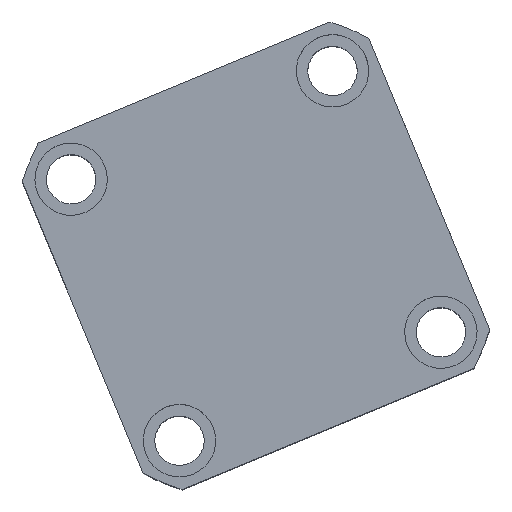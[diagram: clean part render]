
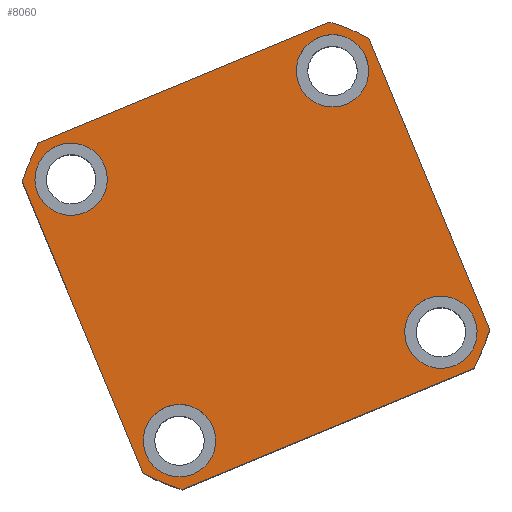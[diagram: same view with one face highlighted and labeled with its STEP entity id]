
A CAD part, top view. The second image highlights one B-rep face of the part: STEP entity #8060.
In plain terms, the highlighted planar face has unit normal (0, 0, 1) as drawn and (0, 0, -1) by its records, which use the part's own axes.
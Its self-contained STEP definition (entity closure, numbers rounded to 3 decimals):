
#17 = DIRECTION ( 'NONE',  ( 0., 0., -1. ) ) ;
#90 = AXIS2_PLACEMENT_3D ( 'NONE', #1785, #5135, #10021 ) ;
#207 = CARTESIAN_POINT ( 'NONE',  ( 43., 43., 0. ) ) ;
#257 = DIRECTION ( 'NONE',  ( 0., 0., -1. ) ) ;
#310 = DIRECTION ( 'NONE',  ( -1., 0., 0. ) ) ;
#329 = CARTESIAN_POINT ( 'NONE',  ( 47.971, 57., 0. ) ) ;
#367 = DIRECTION ( 'NONE',  ( -1., 0., 0. ) ) ;
#378 = CIRCLE ( 'NONE', #9667, 11. ) ;
#385 = ORIENTED_EDGE ( 'NONE', *, *, #4829, .F. ) ;
#488 = VERTEX_POINT ( 'NONE', #329 ) ;
#572 = PLANE ( 'NONE',  #90 ) ;
#603 = EDGE_CURVE ( 'NONE', #13533, #8604, #7409, .T. ) ;
#964 = EDGE_CURVE ( 'NONE', #7082, #14707, #2797, .T. ) ;
#1242 = CARTESIAN_POINT ( 'NONE',  ( 0., 0., 0. ) ) ;
#1319 = EDGE_LOOP ( 'NONE', ( #7719, #14315, #6073, #9938, #13782, #14429, #12432, #10963 ) ) ;
#1517 = CARTESIAN_POINT ( 'NONE',  ( 0., 0., 0. ) ) ;
#1518 = EDGE_LOOP ( 'NONE', ( #12009, #6906 ) ) ;
#1567 = AXIS2_PLACEMENT_3D ( 'NONE', #1242, #9491, #2457 ) ;
#1706 = CARTESIAN_POINT ( 'NONE',  ( -32., 43., 0. ) ) ;
#1785 = CARTESIAN_POINT ( 'NONE',  ( 0., 0., 0. ) ) ;
#2457 = DIRECTION ( 'NONE',  ( 1., 0., 0. ) ) ;
#2491 = DIRECTION ( 'NONE',  ( 0., 0., -1. ) ) ;
#2653 = DIRECTION ( 'NONE',  ( 0., 1., 0. ) ) ;
#2657 = CARTESIAN_POINT ( 'NONE',  ( 47.971, -57., 0. ) ) ;
#2724 = DIRECTION ( 'NONE',  ( 1., 0., 0. ) ) ;
#2797 = CIRCLE ( 'NONE', #6950, 74.5 ) ;
#2809 = VECTOR ( 'NONE', #12925, 1000. ) ;
#2839 = AXIS2_PLACEMENT_3D ( 'NONE', #5458, #13668, #6651 ) ;
#2993 = AXIS2_PLACEMENT_3D ( 'NONE', #11879, #4863, #13051 ) ;
#3221 = CARTESIAN_POINT ( 'NONE',  ( 0., 0., 0. ) ) ;
#3405 = EDGE_LOOP ( 'NONE', ( #385, #7422 ) ) ;
#3536 = FACE_OUTER_BOUND ( 'NONE', #1319, .T. ) ;
#3766 = VECTOR ( 'NONE', #2653, 1000. ) ;
#3879 = CARTESIAN_POINT ( 'NONE',  ( -47.971, 57., 0. ) ) ;
#3904 = CIRCLE ( 'NONE', #4050, 74.5 ) ;
#4050 = AXIS2_PLACEMENT_3D ( 'NONE', #1517, #9768, #2724 ) ;
#4234 = ORIENTED_EDGE ( 'NONE', *, *, #14848, .F. ) ;
#4401 = DIRECTION ( 'NONE',  ( 1., 0., 0. ) ) ;
#4727 = CARTESIAN_POINT ( 'NONE',  ( -57., 57., 0. ) ) ;
#4741 = CARTESIAN_POINT ( 'NONE',  ( 57., 47.971, 0. ) ) ;
#4742 = VERTEX_POINT ( 'NONE', #5821 ) ;
#4829 = EDGE_CURVE ( 'NONE', #8604, #13533, #378, .T. ) ;
#4845 = AXIS2_PLACEMENT_3D ( 'NONE', #14445, #7451, #367 ) ;
#4849 = VERTEX_POINT ( 'NONE', #9411 ) ;
#4863 = DIRECTION ( 'NONE',  ( 0., 0., -1. ) ) ;
#4871 = CIRCLE ( 'NONE', #2993, 11. ) ;
#4925 = DIRECTION ( 'NONE',  ( 0., 0., 1. ) ) ;
#4961 = CARTESIAN_POINT ( 'NONE',  ( 32., 43., 0. ) ) ;
#4985 = CARTESIAN_POINT ( 'NONE',  ( 57., -47.971, 0. ) ) ;
#5135 = DIRECTION ( 'NONE',  ( 0., 0., 1. ) ) ;
#5458 = CARTESIAN_POINT ( 'NONE',  ( 43., -43., 0. ) ) ;
#5668 = CIRCLE ( 'NONE', #11207, 11. ) ;
#5693 = DIRECTION ( 'NONE',  ( 0., -1., 0. ) ) ;
#5821 = CARTESIAN_POINT ( 'NONE',  ( -54., -43., 0. ) ) ;
#6073 = ORIENTED_EDGE ( 'NONE', *, *, #964, .F. ) ;
#6109 = DIRECTION ( 'NONE',  ( 1., 0., 0. ) ) ;
#6199 = VERTEX_POINT ( 'NONE', #8229 ) ;
#6216 = VERTEX_POINT ( 'NONE', #10587 ) ;
#6256 = DIRECTION ( 'NONE',  ( 0., 0., -1. ) ) ;
#6268 = CARTESIAN_POINT ( 'NONE',  ( -57., -47.971, 0. ) ) ;
#6316 = EDGE_LOOP ( 'NONE', ( #10907, #4234 ) ) ;
#6373 = VERTEX_POINT ( 'NONE', #4741 ) ;
#6523 = DIRECTION ( 'NONE',  ( 0., 0., -1. ) ) ;
#6586 = EDGE_CURVE ( 'NONE', #10456, #14297, #3904, .T. ) ;
#6647 = FACE_BOUND ( 'NONE', #14919, .T. ) ;
#6651 = DIRECTION ( 'NONE',  ( -1., 0., 0. ) ) ;
#6660 = EDGE_CURVE ( 'NONE', #6216, #4742, #9790, .T. ) ;
#6888 = VECTOR ( 'NONE', #5693, 1000. ) ;
#6906 = ORIENTED_EDGE ( 'NONE', *, *, #6660, .F. ) ;
#6950 = AXIS2_PLACEMENT_3D ( 'NONE', #3221, #11424, #4401 ) ;
#7035 = FACE_BOUND ( 'NONE', #1518, .T. ) ;
#7082 = VERTEX_POINT ( 'NONE', #2657 ) ;
#7114 = CARTESIAN_POINT ( 'NONE',  ( 43., 43., 0. ) ) ;
#7255 = CARTESIAN_POINT ( 'NONE',  ( -57., -57., 0. ) ) ;
#7409 = CIRCLE ( 'NONE', #11922, 11. ) ;
#7422 = ORIENTED_EDGE ( 'NONE', *, *, #603, .F. ) ;
#7451 = DIRECTION ( 'NONE',  ( 0., 0., -1. ) ) ;
#7503 = CIRCLE ( 'NONE', #2839, 11. ) ;
#7719 = ORIENTED_EDGE ( 'NONE', *, *, #10242, .F. ) ;
#7993 = VERTEX_POINT ( 'NONE', #6268 ) ;
#8060 = ADVANCED_FACE ( 'NONE', ( #7035, #6647, #9780, #12890, #3536 ), #572, .F. ) ;
#8074 = EDGE_CURVE ( 'NONE', #4742, #6216, #9409, .T. ) ;
#8229 = CARTESIAN_POINT ( 'NONE',  ( -47.971, -57., 0. ) ) ;
#8286 = DIRECTION ( 'NONE',  ( -1., 0., 0. ) ) ;
#8361 = ORIENTED_EDGE ( 'NONE', *, *, #14162, .F. ) ;
#8469 = EDGE_CURVE ( 'NONE', #10542, #11073, #4871, .T. ) ;
#8604 = VERTEX_POINT ( 'NONE', #4961 ) ;
#8612 = EDGE_CURVE ( 'NONE', #14707, #6373, #10007, .T. ) ;
#8685 = LINE ( 'NONE', #4727, #2809 ) ;
#8688 = CIRCLE ( 'NONE', #8788, 74.5 ) ;
#8696 = CARTESIAN_POINT ( 'NONE',  ( 54., 43., 0. ) ) ;
#8788 = AXIS2_PLACEMENT_3D ( 'NONE', #11942, #4925, #13117 ) ;
#8882 = CIRCLE ( 'NONE', #1567, 74.5 ) ;
#9409 = CIRCLE ( 'NONE', #14564, 11. ) ;
#9411 = CARTESIAN_POINT ( 'NONE',  ( 32., -43., 0. ) ) ;
#9491 = DIRECTION ( 'NONE',  ( 0., 0., 1. ) ) ;
#9523 = CARTESIAN_POINT ( 'NONE',  ( 43., -43., 0. ) ) ;
#9667 = AXIS2_PLACEMENT_3D ( 'NONE', #7114, #17, #8286 ) ;
#9768 = DIRECTION ( 'NONE',  ( 0., 0., 1. ) ) ;
#9780 = FACE_BOUND ( 'NONE', #3405, .T. ) ;
#9790 = CIRCLE ( 'NONE', #4845, 11. ) ;
#9921 = EDGE_CURVE ( 'NONE', #14297, #7993, #13456, .T. ) ;
#9925 = AXIS2_PLACEMENT_3D ( 'NONE', #9523, #2491, #10700 ) ;
#9938 = ORIENTED_EDGE ( 'NONE', *, *, #14687, .F. ) ;
#10007 = LINE ( 'NONE', #11926, #3766 ) ;
#10021 = DIRECTION ( 'NONE',  ( 1., 0., 0. ) ) ;
#10242 = EDGE_CURVE ( 'NONE', #6373, #488, #8882, .T. ) ;
#10456 = VERTEX_POINT ( 'NONE', #3879 ) ;
#10542 = VERTEX_POINT ( 'NONE', #11163 ) ;
#10587 = CARTESIAN_POINT ( 'NONE',  ( -32., -43., 0. ) ) ;
#10592 = EDGE_CURVE ( 'NONE', #488, #10456, #8685, .T. ) ;
#10700 = DIRECTION ( 'NONE',  ( -1., 0., 0. ) ) ;
#10834 = VERTEX_POINT ( 'NONE', #12088 ) ;
#10907 = ORIENTED_EDGE ( 'NONE', *, *, #8469, .F. ) ;
#10963 = ORIENTED_EDGE ( 'NONE', *, *, #10592, .F. ) ;
#11073 = VERTEX_POINT ( 'NONE', #1706 ) ;
#11163 = CARTESIAN_POINT ( 'NONE',  ( -54., 43., 0. ) ) ;
#11207 = AXIS2_PLACEMENT_3D ( 'NONE', #13271, #6256, #14441 ) ;
#11424 = DIRECTION ( 'NONE',  ( 0., 0., 1. ) ) ;
#11879 = CARTESIAN_POINT ( 'NONE',  ( -43., 43., 0. ) ) ;
#11894 = LINE ( 'NONE', #7255, #14616 ) ;
#11922 = AXIS2_PLACEMENT_3D ( 'NONE', #207, #257, #310 ) ;
#11926 = CARTESIAN_POINT ( 'NONE',  ( 57., 57., 0. ) ) ;
#11942 = CARTESIAN_POINT ( 'NONE',  ( 0., 0., 0. ) ) ;
#12009 = ORIENTED_EDGE ( 'NONE', *, *, #8074, .F. ) ;
#12088 = CARTESIAN_POINT ( 'NONE',  ( 54., -43., 0. ) ) ;
#12432 = ORIENTED_EDGE ( 'NONE', *, *, #6586, .F. ) ;
#12685 = EDGE_CURVE ( 'NONE', #7993, #6199, #8688, .T. ) ;
#12890 = FACE_BOUND ( 'NONE', #6316, .T. ) ;
#12925 = DIRECTION ( 'NONE',  ( -1., 0., 0. ) ) ;
#13051 = DIRECTION ( 'NONE',  ( -1., 0., 0. ) ) ;
#13117 = DIRECTION ( 'NONE',  ( 1., 0., 0. ) ) ;
#13271 = CARTESIAN_POINT ( 'NONE',  ( -43., 43., 0. ) ) ;
#13355 = CIRCLE ( 'NONE', #9925, 11. ) ;
#13456 = LINE ( 'NONE', #13899, #6888 ) ;
#13533 = VERTEX_POINT ( 'NONE', #8696 ) ;
#13537 = CARTESIAN_POINT ( 'NONE',  ( -43., -43., 0. ) ) ;
#13668 = DIRECTION ( 'NONE',  ( 0., 0., -1. ) ) ;
#13782 = ORIENTED_EDGE ( 'NONE', *, *, #12685, .F. ) ;
#13862 = ORIENTED_EDGE ( 'NONE', *, *, #14052, .F. ) ;
#13899 = CARTESIAN_POINT ( 'NONE',  ( -57., 57., 0. ) ) ;
#14052 = EDGE_CURVE ( 'NONE', #4849, #10834, #7503, .T. ) ;
#14162 = EDGE_CURVE ( 'NONE', #10834, #4849, #13355, .T. ) ;
#14297 = VERTEX_POINT ( 'NONE', #14408 ) ;
#14315 = ORIENTED_EDGE ( 'NONE', *, *, #8612, .F. ) ;
#14408 = CARTESIAN_POINT ( 'NONE',  ( -57., 47.971, 0. ) ) ;
#14429 = ORIENTED_EDGE ( 'NONE', *, *, #9921, .F. ) ;
#14441 = DIRECTION ( 'NONE',  ( -1., 0., 0. ) ) ;
#14445 = CARTESIAN_POINT ( 'NONE',  ( -43., -43., 0. ) ) ;
#14564 = AXIS2_PLACEMENT_3D ( 'NONE', #13537, #6523, #14692 ) ;
#14616 = VECTOR ( 'NONE', #6109, 1000. ) ;
#14687 = EDGE_CURVE ( 'NONE', #6199, #7082, #11894, .T. ) ;
#14692 = DIRECTION ( 'NONE',  ( -1., 0., 0. ) ) ;
#14707 = VERTEX_POINT ( 'NONE', #4985 ) ;
#14848 = EDGE_CURVE ( 'NONE', #11073, #10542, #5668, .T. ) ;
#14919 = EDGE_LOOP ( 'NONE', ( #13862, #8361 ) ) ;
